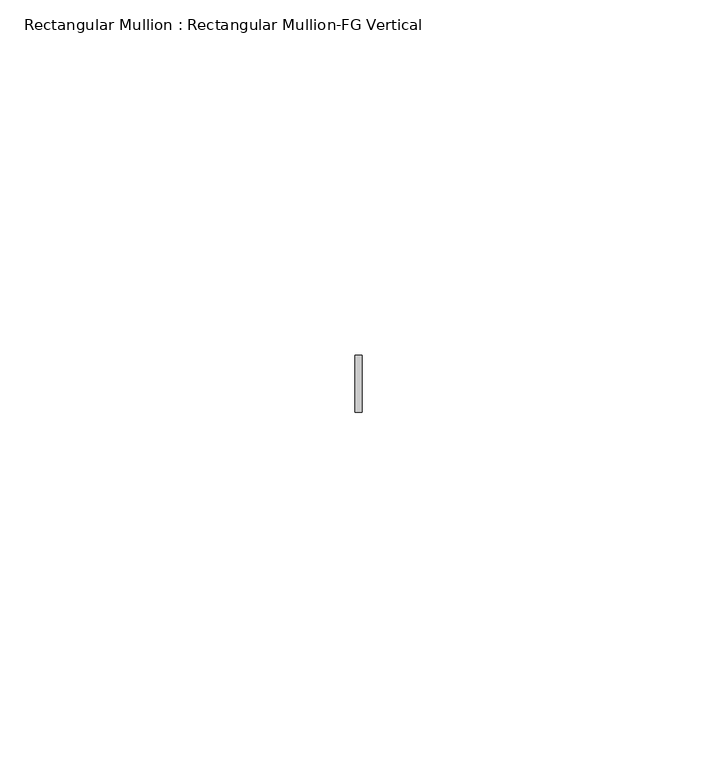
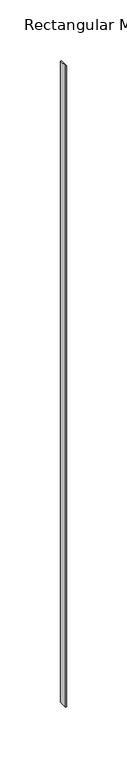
"""IFC4 building model written with IfcOpenShell, lengths in millimetres: member geometry, Rectangular Mullion : Rectangular Mullion-FG Vertical."""

from ifc_helpers import new_model, si_unit, frame, origin, place, context, project, spatial, polyline, outline, extrude, source, transform, mapped, element, save


def rectangular_mullion_rectangular_mullion_fg_vertical_0372845c(model_context):
    return source(origin(), model_context, "Body", "SweptSolid", [
        extrude(outline(polyline([(-0.5, -11.0), (-0.5, -3.0), (0.5, -3.0), (0.5, -11.0), (-0.5, -11.0)])), frame((0.0, 0.0, -644.999955), z_axis=(0.0, 0.0, 1.0), x_axis=(1.0, 0.0, 0.0)), (0.0, 0.0, 1.0), 644.999955),
    ])


if __name__ == "__main__":
    model = new_model("IFC4")
    model_context = context("Model", 3, world=origin())
    ifc_project = project(units=[si_unit("LENGTHUNIT", "METRE", prefix="MILLI")], contexts=[model_context])
    site = spatial("IfcSite", under=ifc_project)
    building = spatial("IfcBuilding", under=site)
    placement = place(None, origin())
    rectangular_mullion_rectangular_mullion_fg_vertical_shape = rectangular_mullion_rectangular_mullion_fg_vertical_0372845c(model_context)
    element("IfcMember", 1, ObjectType="Rectangular Mullion : Rectangular Mullion-FG Vertical", at=placement, inside=building, context=model_context, shape_type="MappedRepresentation", body=[
        mapped(rectangular_mullion_rectangular_mullion_fg_vertical_shape, transform((0.0, 0.0, 0.0), x_axis=(1.0, 0.0, 0.0), y_axis=(0.0, 1.0, 0.0), z_axis=(0.0, 0.0, 1.0))),
    ])
    save(model, "model.ifc")
